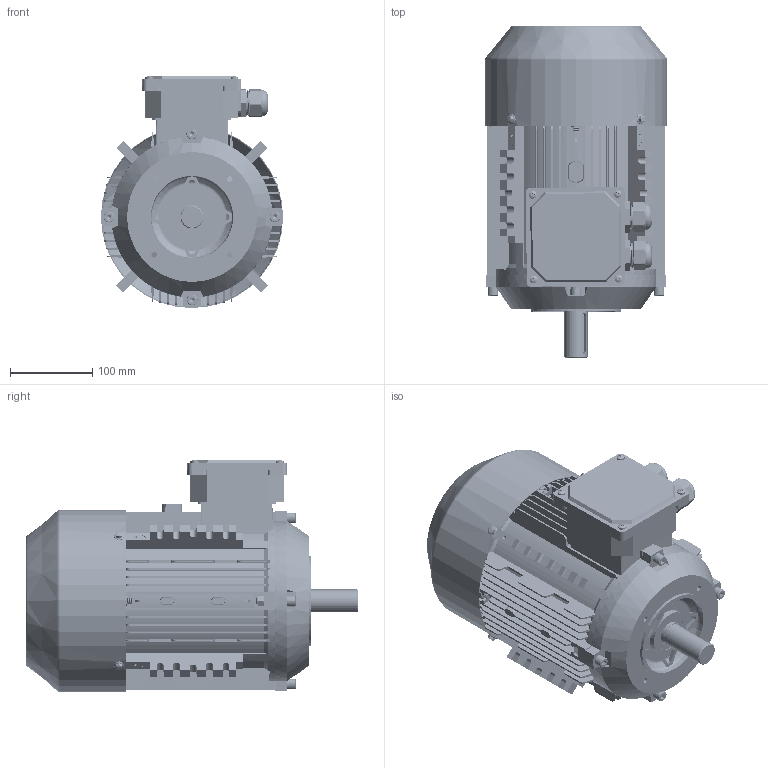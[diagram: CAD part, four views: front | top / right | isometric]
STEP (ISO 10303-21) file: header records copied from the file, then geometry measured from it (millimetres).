
FILE_DESCRIPTION (( 'STEP AP203' ), '1' );
FILE_NAME ('ME3-112B14 3D.STEP', '2024-07-12T07:10:33', ( 'User' ), ( 'China' ), 'SwSTEP 2.0', 'SolidWorks 2018', '' );
FILE_SCHEMA (( 'CONFIG_CONTROL_DESIGN' ));
Length unit declared in the file: millimetre
Products named in the file (17): ME3-112B14傷裔; spring lock washers--normal type gb_GB_FASTENER_WASHER_SW 8; ME3-112B14  3D; 蚐猾45X30X7; ME3-112 儂褲; ME3-112瑞欶; ME3-112B3傷裔; cross recessed pan head screws gb_GB_CROSS_SCREWS_TYPE1 M5X8-8  H type-S; deep groove ball bearings gb_Rolling bearings 6306 GB 276-94; hex flange bolts-heavy grade b gb_GB_FASTENER_BOLT_HFBB M5X10-S; ME3-112 转轴（386）; M24 蹟杶; MS112-132 諉盄碟釱; M24 蹟杶簸; hexagon socket head cap screws gb_GB_FASTENER_SCREWS_HSHCS M8X40-S; MS112-132諉盄碟裔; hex nuts-style normal-grades ab gb_GB_HEXAGON_TYPE10 M8X1-S
Assembly tree (45 placements, depth 2):
  ME3-112B14  3D
    ME3-112 儂褲
    ME3-112B3傷裔
    deep groove ball bearings gb_Rolling bearings 6306 GB 276-94  x2
    ME3-112 转轴（386）
    MS112-132 諉盄碟釱
    hexagon socket head cap screws gb_GB_FASTENER_SCREWS_HSHCS M8X40-S  x8
    hex nuts-style normal-grades ab gb_GB_HEXAGON_TYPE10 M8X1-S  x7
    spring lock washers--normal type gb_GB_FASTENER_WASHER_SW 8  x4
    蚐猾45X30X7
    ME3-112瑞欶
    cross recessed pan head screws gb_GB_CROSS_SCREWS_TYPE1 M5X8-8  H type-S  x8
    hex flange bolts-heavy grade b gb_GB_FASTENER_BOLT_HFBB M5X10-S  x4
    M24 蹟杶  x2
    M24 蹟杶簸  x2
    MS112-132諉盄碟裔
    ME3-112B14傷裔
Bounding box: 221.6 x 403.61 x 282.3 mm (x, y, z)
Volume: 2423245.1 mm3; surface area: 1208144.6 mm2
Topology: 46 solids, 47 shells, 6510 faces, 15973 edges, 9527 vertices
Faces by surface type: cone 2375, plane 1930, cylinder 1859, torus 226, sphere 76, bspline 44
Entity records: 115371 total; most frequent: CARTESIAN_POINT 31678, ORIENTED_EDGE 17608, DIRECTION 16192, EDGE_CURVE 8804, VERTEX_POINT 5662, AXIS2_PLACEMENT_3D 5531, LINE 5130, VECTOR 5130
